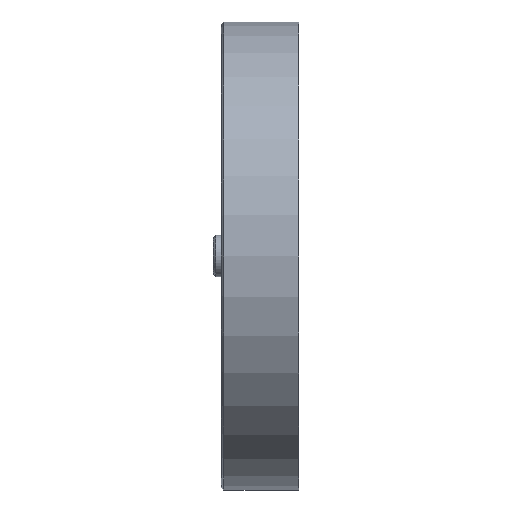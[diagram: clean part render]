
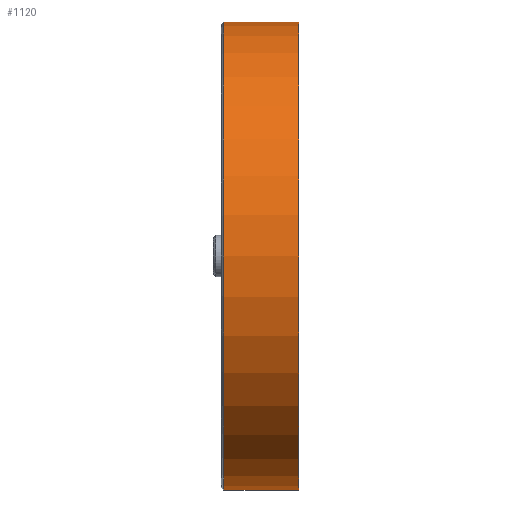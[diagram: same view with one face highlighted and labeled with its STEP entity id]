
A CAD part, left-side view. The second image highlights one B-rep face of the part: STEP entity #1120.
In plain terms, the highlighted cylindrical face has radius 45 mm (diameter 90 mm), a partial arc.
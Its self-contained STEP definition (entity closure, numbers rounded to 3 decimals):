
#88 = EDGE_LOOP ( 'NONE', ( #3716, #4451, #2029, #4117 ) ) ;
#113 = AXIS2_PLACEMENT_3D ( 'NONE', #437, #1929, #3347 ) ;
#232 = VERTEX_POINT ( 'NONE', #2066 ) ;
#334 = CARTESIAN_POINT ( 'NONE',  ( 0., -35.611, 0. ) ) ;
#397 = CARTESIAN_POINT ( 'NONE',  ( 0., -35.611, 45. ) ) ;
#437 = CARTESIAN_POINT ( 'NONE',  ( 0., 14.4, 0. ) ) ;
#546 = VERTEX_POINT ( 'NONE', #1691 ) ;
#1006 = VECTOR ( 'NONE', #2801, 1000. ) ;
#1076 = EDGE_CURVE ( 'NONE', #232, #2730, #2080, .T. ) ;
#1120 = ADVANCED_FACE ( 'NONE', ( #2100 ), #3525, .T. ) ;
#1178 = EDGE_CURVE ( 'NONE', #546, #3430, #1190, .T. ) ;
#1190 = LINE ( 'NONE', #397, #1959 ) ;
#1403 = DIRECTION ( 'NONE',  ( 0., 0., -1. ) ) ;
#1424 = CARTESIAN_POINT ( 'NONE',  ( 0., -35.611, -45. ) ) ;
#1691 = CARTESIAN_POINT ( 'NONE',  ( 0., 14.4, 45. ) ) ;
#1757 = DIRECTION ( 'NONE',  ( 0., -1., 0. ) ) ;
#1929 = DIRECTION ( 'NONE',  ( 0., -1., 0. ) ) ;
#1959 = VECTOR ( 'NONE', #3992, 1000. ) ;
#2029 = ORIENTED_EDGE ( 'NONE', *, *, #1076, .T. ) ;
#2066 = CARTESIAN_POINT ( 'NONE',  ( 0., 14.4, -45. ) ) ;
#2080 = LINE ( 'NONE', #1424, #1006 ) ;
#2100 = FACE_OUTER_BOUND ( 'NONE', #88, .T. ) ;
#2730 = VERTEX_POINT ( 'NONE', #4080 ) ;
#2801 = DIRECTION ( 'NONE',  ( 0., -1., 0. ) ) ;
#2829 = CARTESIAN_POINT ( 'NONE',  ( 0., 0., 45. ) ) ;
#2896 = DIRECTION ( 'NONE',  ( 0., 0., -1. ) ) ;
#2921 = AXIS2_PLACEMENT_3D ( 'NONE', #334, #1757, #1403 ) ;
#2928 = CIRCLE ( 'NONE', #113, 45. ) ;
#2968 = DIRECTION ( 'NONE',  ( 0., -1., 0. ) ) ;
#3235 = EDGE_CURVE ( 'NONE', #3430, #2730, #3605, .T. ) ;
#3260 = EDGE_CURVE ( 'NONE', #546, #232, #2928, .T. ) ;
#3326 = CARTESIAN_POINT ( 'NONE',  ( 0., 0., 0. ) ) ;
#3347 = DIRECTION ( 'NONE',  ( 0., 0., -1. ) ) ;
#3430 = VERTEX_POINT ( 'NONE', #2829 ) ;
#3525 = CYLINDRICAL_SURFACE ( 'NONE', #2921, 45. ) ;
#3605 = CIRCLE ( 'NONE', #4585, 45. ) ;
#3716 = ORIENTED_EDGE ( 'NONE', *, *, #1178, .F. ) ;
#3992 = DIRECTION ( 'NONE',  ( 0., -1., 0. ) ) ;
#4080 = CARTESIAN_POINT ( 'NONE',  ( 0., 0., -45. ) ) ;
#4117 = ORIENTED_EDGE ( 'NONE', *, *, #3235, .F. ) ;
#4451 = ORIENTED_EDGE ( 'NONE', *, *, #3260, .T. ) ;
#4585 = AXIS2_PLACEMENT_3D ( 'NONE', #3326, #2968, #2896 ) ;
